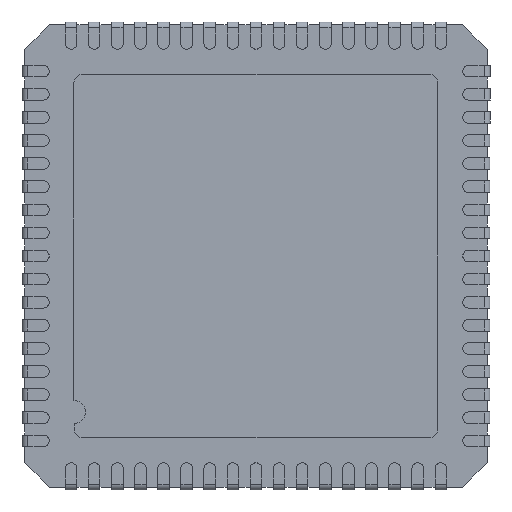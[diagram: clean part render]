
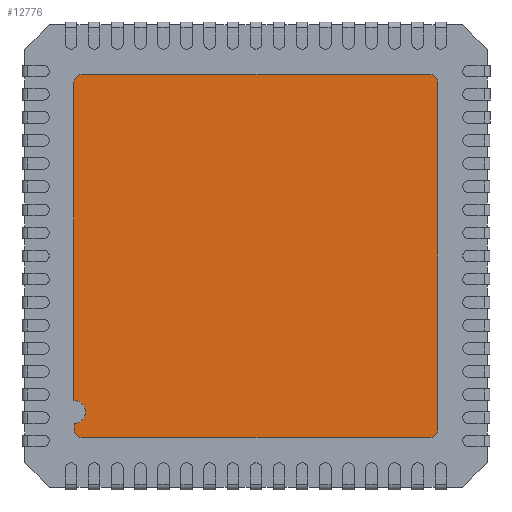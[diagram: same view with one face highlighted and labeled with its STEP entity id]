
A CAD part, front view. The second image highlights one B-rep face of the part: STEP entity #12776.
In plain terms, the highlighted planar face has unit normal (0, -1, 0).
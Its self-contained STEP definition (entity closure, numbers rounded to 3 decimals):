
#9313 = DIRECTION ( 'NONE',  ( -1., 0., 0. ) ) ;
#9314 = VECTOR ( 'NONE', #9313, 1000. ) ;
#9316 = CARTESIAN_POINT ( 'NONE',  ( 3., 0., 3.15 ) ) ;
#9317 = LINE ( 'NONE', #9316, #9314 ) ;
#9321 = CARTESIAN_POINT ( 'NONE',  ( -3., 0., 3.15 ) ) ;
#9385 = CARTESIAN_POINT ( 'NONE',  ( 3.15, 0., -3. ) ) ;
#9453 = DIRECTION ( 'NONE',  ( 0., 0., 1. ) ) ;
#9454 = DIRECTION ( 'NONE',  ( 0., -1., 0. ) ) ;
#9455 = CARTESIAN_POINT ( 'NONE',  ( 3., 0., 3. ) ) ;
#9456 = AXIS2_PLACEMENT_3D ( 'NONE', #9455, #9454, #9453 ) ;
#9457 = CIRCLE ( 'NONE', #9456, 0.15 ) ;
#9459 = DIRECTION ( 'NONE',  ( 0., 0., -1. ) ) ;
#9491 = DIRECTION ( 'NONE',  ( 0., 0., 1. ) ) ;
#9492 = VECTOR ( 'NONE', #9491, 1000. ) ;
#9493 = CARTESIAN_POINT ( 'NONE',  ( 3.15, 0., 3. ) ) ;
#9494 = LINE ( 'NONE', #9493, #9492 ) ;
#9502 = CARTESIAN_POINT ( 'NONE',  ( 3., 0., -3.15 ) ) ;
#9503 = DIRECTION ( 'NONE',  ( 0., 0., 1. ) ) ;
#9504 = DIRECTION ( 'NONE',  ( 0., -1., 0. ) ) ;
#9505 = CARTESIAN_POINT ( 'NONE',  ( 3., 0., -3. ) ) ;
#9506 = AXIS2_PLACEMENT_3D ( 'NONE', #9505, #9504, #9503 ) ;
#9511 = CIRCLE ( 'NONE', #9506, 0.15 ) ;
#9535 = CARTESIAN_POINT ( 'NONE',  ( 3.15, 0., 3. ) ) ;
#9589 = CARTESIAN_POINT ( 'NONE',  ( 3., 0., 3.15 ) ) ;
#9619 = DIRECTION ( 'NONE',  ( 0., -1., 0. ) ) ;
#9620 = CARTESIAN_POINT ( 'NONE',  ( -3., 0., 3. ) ) ;
#9621 = AXIS2_PLACEMENT_3D ( 'NONE', #9620, #9619, #9459 ) ;
#9626 = CIRCLE ( 'NONE', #9621, 0.15 ) ;
#9681 = CARTESIAN_POINT ( 'NONE',  ( -3.15, 0., 3. ) ) ;
#10491 = CARTESIAN_POINT ( 'NONE',  ( -3., 0., -3.15 ) ) ;
#10520 = DIRECTION ( 'NONE',  ( 0., 0., -1. ) ) ;
#10522 = VECTOR ( 'NONE', #10520, 1000. ) ;
#10525 = CARTESIAN_POINT ( 'NONE',  ( -3.15, 0., 3. ) ) ;
#10526 = LINE ( 'NONE', #10525, #10522 ) ;
#10559 = DIRECTION ( 'NONE',  ( 0., 0., -1. ) ) ;
#10560 = VECTOR ( 'NONE', #10559, 1000. ) ;
#10561 = CARTESIAN_POINT ( 'NONE',  ( -3.15, 0., -2.9 ) ) ;
#10597 = FACE_OUTER_BOUND ( 'NONE', #12777, .T. ) ;
#10598 = DIRECTION ( 'NONE',  ( 1., 0., 0. ) ) ;
#10599 = VECTOR ( 'NONE', #10598, 1000. ) ;
#10600 = CARTESIAN_POINT ( 'NONE',  ( 3., 0., -3.15 ) ) ;
#10601 = LINE ( 'NONE', #10600, #10599 ) ;
#10655 = DIRECTION ( 'NONE',  ( 0., 0., 1. ) ) ;
#10656 = DIRECTION ( 'NONE',  ( 0., 1., 0. ) ) ;
#10657 = CARTESIAN_POINT ( 'NONE',  ( 3., 0., -3. ) ) ;
#10658 = AXIS2_PLACEMENT_3D ( 'NONE', #10657, #10656, #10655 ) ;
#10659 = PLANE ( 'NONE',  #10658 ) ;
#10689 = DIRECTION ( 'NONE',  ( 0., 0., -1. ) ) ;
#10690 = DIRECTION ( 'NONE',  ( 0., 1., 0. ) ) ;
#10691 = CARTESIAN_POINT ( 'NONE',  ( -3.15, 0., -2.7 ) ) ;
#10692 = AXIS2_PLACEMENT_3D ( 'NONE', #10691, #10690, #10689 ) ;
#10693 = CIRCLE ( 'NONE', #10692, 0.2 ) ;
#10695 = CARTESIAN_POINT ( 'NONE',  ( -3.15, 0., -2.9 ) ) ;
#10711 = LINE ( 'NONE', #10561, #10560 ) ;
#10713 = CARTESIAN_POINT ( 'NONE',  ( -3.15, 0., -3. ) ) ;
#10720 = CARTESIAN_POINT ( 'NONE',  ( -3.15, 0., -2.5 ) ) ;
#10753 = DIRECTION ( 'NONE',  ( 0., 0., 1. ) ) ;
#10754 = DIRECTION ( 'NONE',  ( 0., -1., 0. ) ) ;
#10755 = CARTESIAN_POINT ( 'NONE',  ( -3., 0., -3. ) ) ;
#10756 = AXIS2_PLACEMENT_3D ( 'NONE', #10755, #10754, #10753 ) ;
#10757 = CIRCLE ( 'NONE', #10756, 0.15 ) ;
#12487 = VERTEX_POINT ( 'NONE', #9385 ) ;
#12520 = VERTEX_POINT ( 'NONE', #9321 ) ;
#12521 = EDGE_CURVE ( 'NONE', #12562, #12520, #9317, .T. ) ;
#12535 = EDGE_CURVE ( 'NONE', #12487, #12548, #9494, .T. ) ;
#12543 = EDGE_CURVE ( 'NONE', #12544, #12487, #9511, .T. ) ;
#12544 = VERTEX_POINT ( 'NONE', #9502 ) ;
#12548 = VERTEX_POINT ( 'NONE', #9535 ) ;
#12562 = VERTEX_POINT ( 'NONE', #9589 ) ;
#12578 = EDGE_CURVE ( 'NONE', #12520, #12595, #9626, .T. ) ;
#12582 = EDGE_CURVE ( 'NONE', #12548, #12562, #9457, .T. ) ;
#12595 = VERTEX_POINT ( 'NONE', #9681 ) ;
#12774 = EDGE_CURVE ( 'NONE', #12834, #12544, #10601, .T. ) ;
#12776 = ADVANCED_FACE ( 'NONE', ( #10597 ), #10659, .F. ) ;
#12777 = EDGE_LOOP ( 'NONE', ( #12778, #12779, #12811, #12879, #12940, #12853, #12855, #12880, #12893, #12979 ) ) ;
#12778 = ORIENTED_EDGE ( 'NONE', *, *, #12543, .T. ) ;
#12779 = ORIENTED_EDGE ( 'NONE', *, *, #12535, .T. ) ;
#12795 = VERTEX_POINT ( 'NONE', #10695 ) ;
#12797 = EDGE_CURVE ( 'NONE', #12801, #12795, #10693, .T. ) ;
#12801 = VERTEX_POINT ( 'NONE', #10720 ) ;
#12805 = VERTEX_POINT ( 'NONE', #10713 ) ;
#12807 = EDGE_CURVE ( 'NONE', #12795, #12805, #10711, .T. ) ;
#12810 = EDGE_CURVE ( 'NONE', #12595, #12801, #10526, .T. ) ;
#12811 = ORIENTED_EDGE ( 'NONE', *, *, #12582, .T. ) ;
#12834 = VERTEX_POINT ( 'NONE', #10491 ) ;
#12853 = ORIENTED_EDGE ( 'NONE', *, *, #12810, .T. ) ;
#12855 = ORIENTED_EDGE ( 'NONE', *, *, #12797, .T. ) ;
#12858 = EDGE_CURVE ( 'NONE', #12805, #12834, #10757, .T. ) ;
#12879 = ORIENTED_EDGE ( 'NONE', *, *, #12521, .T. ) ;
#12880 = ORIENTED_EDGE ( 'NONE', *, *, #12807, .T. ) ;
#12893 = ORIENTED_EDGE ( 'NONE', *, *, #12858, .T. ) ;
#12940 = ORIENTED_EDGE ( 'NONE', *, *, #12578, .T. ) ;
#12979 = ORIENTED_EDGE ( 'NONE', *, *, #12774, .T. ) ;
